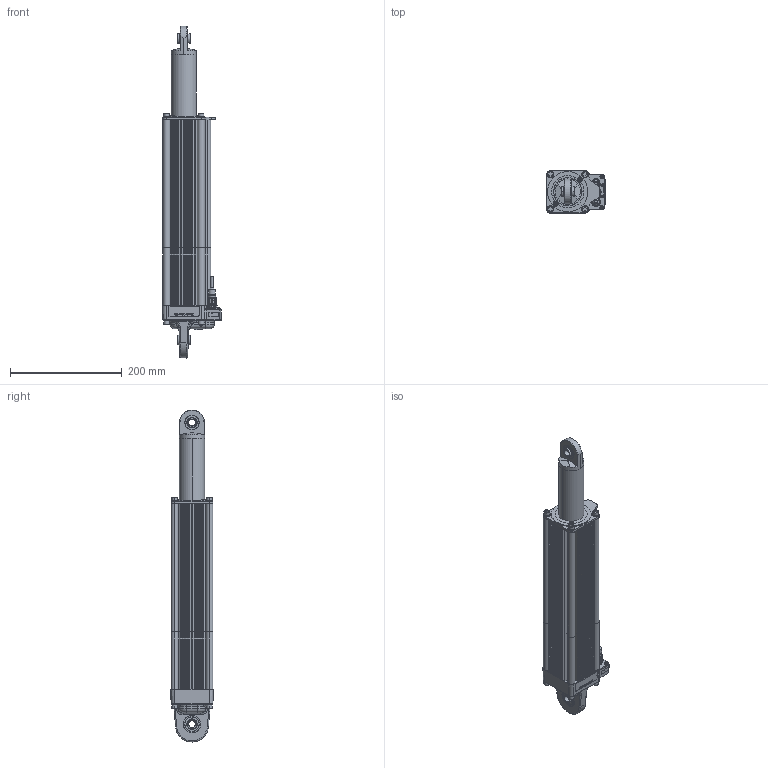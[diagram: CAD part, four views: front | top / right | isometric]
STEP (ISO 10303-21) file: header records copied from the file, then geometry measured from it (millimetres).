
FILE_DESCRIPTION (( 'STEP AP214' ), '1' );
FILE_NAME ('AG_9333.STEP', '2022-07-26T08:54:42', ( '' ), ( '' ), 'SwSTEP 2.0', 'SolidWorks 2019', '' );
FILE_SCHEMA (( 'AUTOMOTIVE_DESIGN' ));
Length unit declared in the file: millimetre
Products named in the file (1): AG_9333
Bounding box: 105.43 x 76.28 x 594.5 mm (x, y, z)
Volume: 2098901.4 mm3; surface area: 434312.5 mm2
Topology: 56 solids, 56 shells, 3279 faces, 8878 edges, 5869 vertices
Faces by surface type: plane 1359, cylinder 1307, bspline 309, cone 210, torus 60, sphere 34
Entity records: 162300 total; most frequent: CARTESIAN_POINT 43898, ORIENTED_EDGE 17644, DIRECTION 16605, EDGE_CURVE 8822, AXIS2_PLACEMENT_3D 6027, VERTEX_POINT 5857, VECTOR 4551, LINE 4551
